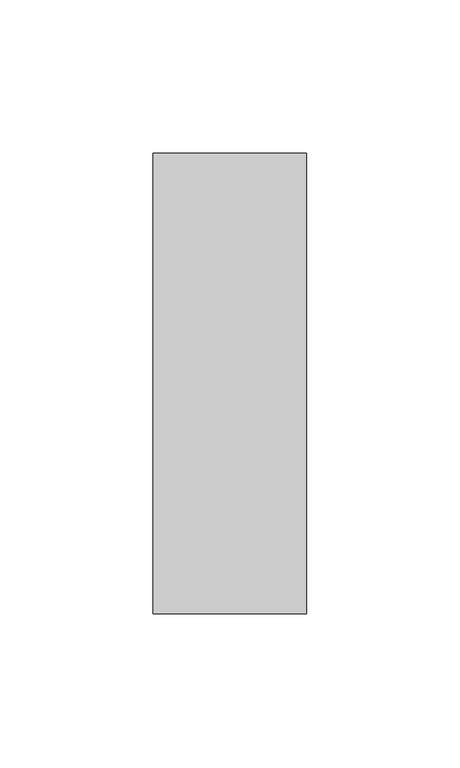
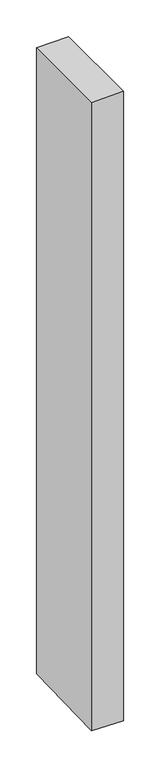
"""IFC4 building model written with IfcOpenShell, lengths in millimetres: member geometry, Прямоугольный импост : 50 x 150 мм."""

from ifc_helpers import new_model, si_unit, origin, place, context, project, spatial, faceted_brep, source, transform, mapped, element, save


def member_43a17e8f(model_context):
    return source(origin(), model_context, "Body", "Brep", [
        faceted_brep([(-25.0, 75.0, -0.4772913), (25.0, 75.0, 0.5633081), (25.0, 75.0, -1041.6024799), (-25.0, 75.0, -1040.6094429), (-25.0, -75.0, -0.5633081), (-25.0, -75.0, -1044.5943862), (25.0, -75.0, 0.4772913), (25.0, -75.0, -1045.5874232)], [[[0, 1, 2, 3]], [[4, 0, 3, 5]], [[6, 4, 5, 7]], [[1, 6, 7, 2]], [[1, 0, 4, 6]], [[2, 7, 5, 3]]]),
    ])


if __name__ == "__main__":
    model = new_model("IFC4")
    model_context = context("Model", 3, world=origin())
    ifc_project = project(units=[si_unit("LENGTHUNIT", "METRE", prefix="MILLI")], contexts=[model_context])
    site = spatial("IfcSite", under=ifc_project)
    building = spatial("IfcBuilding", under=site)
    placement = place(None, origin())
    member_shape = member_43a17e8f(model_context)
    element("IfcMember", 1, ObjectType="Прямоугольный импост : 50 x 150 мм", at=placement, inside=building, context=model_context, shape_type="MappedRepresentation", body=[
        mapped(member_shape, transform((0.0, 0.0, 0.0), x_axis=(1.0, 0.0, 0.0), y_axis=(0.0, 1.0, 0.0), z_axis=(0.0, 0.0, 1.0))),
    ])
    save(model, "model.ifc")
